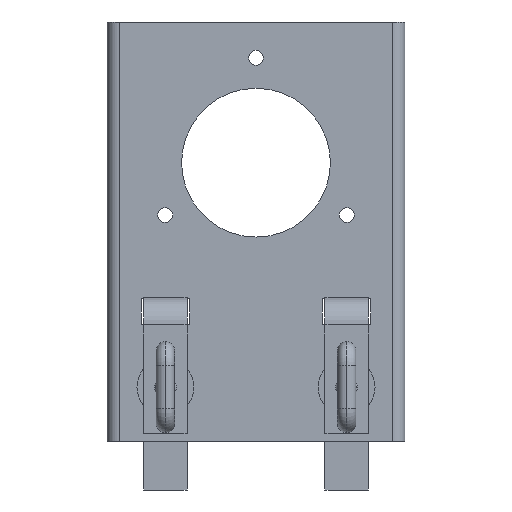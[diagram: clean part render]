
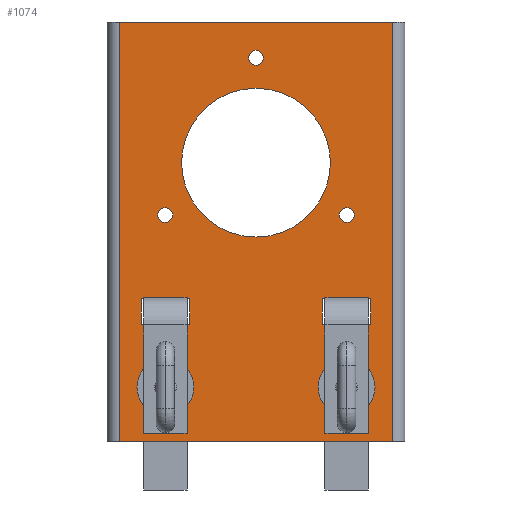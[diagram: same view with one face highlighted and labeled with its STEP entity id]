
A CAD part, front view. The second image highlights one B-rep face of the part: STEP entity #1074.
In plain terms, the highlighted planar face has unit normal (0, -1, 0) as drawn and (0, 0, -1) by its records, which use the part's own axes.
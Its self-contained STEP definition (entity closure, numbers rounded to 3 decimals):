
#56=DIRECTION('',(0.,1.,0.));
#57=VECTOR('',#56,155.);
#58=CARTESIAN_POINT('',(-50.5,0.,0.));
#59=LINE('',#58,#57);
#189=DIRECTION('',(-1.,0.,0.));
#190=VECTOR('',#189,101.);
#191=CARTESIAN_POINT('',(50.5,0.,0.));
#192=LINE('',#191,#190);
#197=DIRECTION('',(0.,1.,0.));
#198=VECTOR('',#197,155.);
#199=CARTESIAN_POINT('',(50.5,0.,0.));
#200=LINE('',#199,#198);
#215=CARTESIAN_POINT('',(0.,52.,0.));
#216=DIRECTION('',(0.,0.,1.));
#217=DIRECTION('',(1.,0.,0.));
#218=AXIS2_PLACEMENT_3D('',#215,#216,#217);
#220=CARTESIAN_POINT('',(0.,52.,0.));
#221=DIRECTION('',(0.,0.,1.));
#222=DIRECTION('',(-1.,0.,0.));
#223=AXIS2_PLACEMENT_3D('',#220,#221,#222);
#225=CARTESIAN_POINT('',(0.,13.25,0.));
#226=DIRECTION('',(0.,0.,1.));
#227=DIRECTION('',(1.,0.,0.));
#228=AXIS2_PLACEMENT_3D('',#225,#226,#227);
#230=CARTESIAN_POINT('',(0.,13.25,0.));
#231=DIRECTION('',(0.,0.,1.));
#232=DIRECTION('',(-1.,0.,0.));
#233=AXIS2_PLACEMENT_3D('',#230,#231,#232);
#235=CARTESIAN_POINT('',(33.558,71.375,0.));
#236=DIRECTION('',(0.,0.,1.));
#237=DIRECTION('',(-0.5,0.866,0.));
#238=AXIS2_PLACEMENT_3D('',#235,#236,#237);
#240=CARTESIAN_POINT('',(33.558,71.375,0.));
#241=DIRECTION('',(0.,0.,1.));
#242=DIRECTION('',(0.5,-0.866,0.));
#243=AXIS2_PLACEMENT_3D('',#240,#241,#242);
#245=CARTESIAN_POINT('',(-33.558,71.375,0.));
#246=DIRECTION('',(0.,0.,1.));
#247=DIRECTION('',(-0.5,-0.866,0.));
#248=AXIS2_PLACEMENT_3D('',#245,#246,#247);
#250=CARTESIAN_POINT('',(-33.558,71.375,0.));
#251=DIRECTION('',(0.,0.,1.));
#252=DIRECTION('',(0.5,0.866,0.));
#253=AXIS2_PLACEMENT_3D('',#250,#251,#252);
#255=DIRECTION('',(-1.,0.,0.));
#256=VECTOR('',#255,16.);
#257=CARTESIAN_POINT('',(-25.5,112.,0.));
#258=LINE('',#257,#256);
#259=DIRECTION('',(0.,1.,0.));
#260=VECTOR('',#259,8.);
#261=CARTESIAN_POINT('',(-24.5,103.,0.));
#262=LINE('',#261,#260);
#263=DIRECTION('',(1.,0.,0.));
#264=VECTOR('',#263,16.);
#265=CARTESIAN_POINT('',(-41.5,102.,0.));
#266=LINE('',#265,#264);
#267=DIRECTION('',(0.,-1.,0.));
#268=VECTOR('',#267,8.);
#269=CARTESIAN_POINT('',(-42.5,111.,0.));
#270=LINE('',#269,#268);
#271=DIRECTION('',(1.,0.,0.));
#272=VECTOR('',#271,16.);
#273=CARTESIAN_POINT('',(25.5,102.,0.));
#274=LINE('',#273,#272);
#275=DIRECTION('',(0.,-1.,0.));
#276=VECTOR('',#275,8.);
#277=CARTESIAN_POINT('',(24.5,111.,0.));
#278=LINE('',#277,#276);
#279=DIRECTION('',(-1.,0.,0.));
#280=VECTOR('',#279,16.);
#281=CARTESIAN_POINT('',(41.5,112.,0.));
#282=LINE('',#281,#280);
#283=DIRECTION('',(0.,1.,0.));
#284=VECTOR('',#283,8.);
#285=CARTESIAN_POINT('',(42.5,103.,0.));
#286=LINE('',#285,#284);
#295=DIRECTION('',(-1.,0.,0.));
#296=VECTOR('',#295,101.);
#297=CARTESIAN_POINT('',(50.5,155.,0.));
#298=LINE('',#297,#296);
#425=CARTESIAN_POINT('',(-41.5,111.,0.));
#426=DIRECTION('',(0.,0.,1.));
#427=DIRECTION('',(0.,1.,0.));
#428=AXIS2_PLACEMENT_3D('',#425,#426,#427);
#443=CARTESIAN_POINT('',(-41.5,103.,0.));
#444=DIRECTION('',(0.,0.,1.));
#445=DIRECTION('',(-1.,0.,0.));
#446=AXIS2_PLACEMENT_3D('',#443,#444,#445);
#461=CARTESIAN_POINT('',(-25.5,103.,0.));
#462=DIRECTION('',(0.,0.,1.));
#463=DIRECTION('',(0.,-1.,0.));
#464=AXIS2_PLACEMENT_3D('',#461,#462,#463);
#479=CARTESIAN_POINT('',(-25.5,111.,0.));
#480=DIRECTION('',(0.,0.,1.));
#481=DIRECTION('',(1.,0.,0.));
#482=AXIS2_PLACEMENT_3D('',#479,#480,#481);
#497=CARTESIAN_POINT('',(25.5,103.,0.));
#498=DIRECTION('',(0.,0.,1.));
#499=DIRECTION('',(-1.,0.,0.));
#500=AXIS2_PLACEMENT_3D('',#497,#498,#499);
#515=CARTESIAN_POINT('',(25.5,111.,0.));
#516=DIRECTION('',(0.,0.,1.));
#517=DIRECTION('',(0.,1.,0.));
#518=AXIS2_PLACEMENT_3D('',#515,#516,#517);
#533=CARTESIAN_POINT('',(41.5,111.,0.));
#534=DIRECTION('',(0.,0.,1.));
#535=DIRECTION('',(1.,0.,0.));
#536=AXIS2_PLACEMENT_3D('',#533,#534,#535);
#551=CARTESIAN_POINT('',(41.5,103.,0.));
#552=DIRECTION('',(0.,0.,1.));
#553=DIRECTION('',(0.,-1.,0.));
#554=AXIS2_PLACEMENT_3D('',#551,#552,#553);
#561=CARTESIAN_POINT('',(50.5,0.,0.));
#562=CARTESIAN_POINT('',(-50.5,0.,0.));
#563=VERTEX_POINT('',#561);
#564=VERTEX_POINT('',#562);
#565=CARTESIAN_POINT('',(50.5,155.,0.));
#566=CARTESIAN_POINT('',(-50.5,155.,0.));
#567=VERTEX_POINT('',#565);
#568=VERTEX_POINT('',#566);
#577=CARTESIAN_POINT('',(27.5,52.,0.));
#578=CARTESIAN_POINT('',(-27.5,52.,0.));
#579=VERTEX_POINT('',#577);
#580=VERTEX_POINT('',#578);
#585=CARTESIAN_POINT('',(2.75,13.25,0.));
#586=CARTESIAN_POINT('',(-2.75,13.25,0.));
#587=VERTEX_POINT('',#585);
#588=VERTEX_POINT('',#586);
#641=CARTESIAN_POINT('',(32.183,73.757,0.));
#642=CARTESIAN_POINT('',(34.933,68.993,0.));
#643=VERTEX_POINT('',#641);
#644=VERTEX_POINT('',#642);
#649=CARTESIAN_POINT('',(-34.933,68.993,0.));
#650=CARTESIAN_POINT('',(-32.183,73.757,0.));
#651=VERTEX_POINT('',#649);
#652=VERTEX_POINT('',#650);
#657=CARTESIAN_POINT('',(-41.5,112.,0.));
#659=VERTEX_POINT('',#657);
#661=CARTESIAN_POINT('',(-42.5,111.,0.));
#663=VERTEX_POINT('',#661);
#665=CARTESIAN_POINT('',(-24.5,111.,0.));
#667=VERTEX_POINT('',#665);
#669=CARTESIAN_POINT('',(-25.5,112.,0.));
#671=VERTEX_POINT('',#669);
#673=CARTESIAN_POINT('',(-25.5,102.,0.));
#675=VERTEX_POINT('',#673);
#677=CARTESIAN_POINT('',(-24.5,103.,0.));
#679=VERTEX_POINT('',#677);
#681=CARTESIAN_POINT('',(-42.5,103.,0.));
#683=VERTEX_POINT('',#681);
#685=CARTESIAN_POINT('',(-41.5,102.,0.));
#687=VERTEX_POINT('',#685);
#689=CARTESIAN_POINT('',(24.5,103.,0.));
#691=VERTEX_POINT('',#689);
#693=CARTESIAN_POINT('',(25.5,102.,0.));
#695=VERTEX_POINT('',#693);
#697=CARTESIAN_POINT('',(25.5,112.,0.));
#699=VERTEX_POINT('',#697);
#701=CARTESIAN_POINT('',(24.5,111.,0.));
#703=VERTEX_POINT('',#701);
#705=CARTESIAN_POINT('',(41.5,102.,0.));
#707=VERTEX_POINT('',#705);
#709=CARTESIAN_POINT('',(42.5,103.,0.));
#711=VERTEX_POINT('',#709);
#713=CARTESIAN_POINT('',(42.5,111.,0.));
#715=VERTEX_POINT('',#713);
#717=CARTESIAN_POINT('',(41.5,112.,0.));
#719=VERTEX_POINT('',#717);
#1002=CARTESIAN_POINT('',(55.,0.,0.));
#1003=DIRECTION('',(0.,0.,-1.));
#1004=DIRECTION('',(-1.,0.,0.));
#1005=AXIS2_PLACEMENT_3D('',#1002,#1003,#1004);
#1006=PLANE('',#1005);
#1007=ORIENTED_EDGE('',*,*,#967,.F.);
#1008=ORIENTED_EDGE('',*,*,#992,.T.);
#1010=ORIENTED_EDGE('',*,*,#1009,.T.);
#1011=ORIENTED_EDGE('',*,*,#807,.F.);
#1012=EDGE_LOOP('',(#1007,#1008,#1010,#1011));
#1013=FACE_OUTER_BOUND('',#1012,.F.);
#1015=ORIENTED_EDGE('',*,*,#1014,.F.);
#1017=ORIENTED_EDGE('',*,*,#1016,.F.);
#1018=EDGE_LOOP('',(#1015,#1017));
#1019=FACE_BOUND('',#1018,.F.);
#1021=ORIENTED_EDGE('',*,*,#1020,.F.);
#1023=ORIENTED_EDGE('',*,*,#1022,.F.);
#1024=EDGE_LOOP('',(#1021,#1023));
#1025=FACE_BOUND('',#1024,.F.);
#1027=ORIENTED_EDGE('',*,*,#1026,.F.);
#1029=ORIENTED_EDGE('',*,*,#1028,.F.);
#1030=EDGE_LOOP('',(#1027,#1029));
#1031=FACE_BOUND('',#1030,.F.);
#1033=ORIENTED_EDGE('',*,*,#1032,.F.);
#1035=ORIENTED_EDGE('',*,*,#1034,.F.);
#1036=EDGE_LOOP('',(#1033,#1035));
#1037=FACE_BOUND('',#1036,.F.);
#1039=ORIENTED_EDGE('',*,*,#1038,.F.);
#1041=ORIENTED_EDGE('',*,*,#1040,.F.);
#1043=ORIENTED_EDGE('',*,*,#1042,.F.);
#1045=ORIENTED_EDGE('',*,*,#1044,.F.);
#1047=ORIENTED_EDGE('',*,*,#1046,.F.);
#1049=ORIENTED_EDGE('',*,*,#1048,.F.);
#1051=ORIENTED_EDGE('',*,*,#1050,.F.);
#1053=ORIENTED_EDGE('',*,*,#1052,.F.);
#1054=EDGE_LOOP('',(#1039,#1041,#1043,#1045,#1047,#1049,#1051,#1053));
#1055=FACE_BOUND('',#1054,.F.);
#1057=ORIENTED_EDGE('',*,*,#1056,.F.);
#1059=ORIENTED_EDGE('',*,*,#1058,.F.);
#1061=ORIENTED_EDGE('',*,*,#1060,.F.);
#1063=ORIENTED_EDGE('',*,*,#1062,.F.);
#1065=ORIENTED_EDGE('',*,*,#1064,.F.);
#1067=ORIENTED_EDGE('',*,*,#1066,.F.);
#1069=ORIENTED_EDGE('',*,*,#1068,.F.);
#1071=ORIENTED_EDGE('',*,*,#1070,.F.);
#1072=EDGE_LOOP('',(#1057,#1059,#1061,#1063,#1065,#1067,#1069,#1071));
#1073=FACE_BOUND('',#1072,.F.);
#1074=ADVANCED_FACE('',(#1013,#1019,#1025,#1031,#1037,#1055,#1073),#1006,.T.);
#219=CIRCLE('',#218,27.5);
#224=CIRCLE('',#223,27.5);
#229=CIRCLE('',#228,2.75);
#234=CIRCLE('',#233,2.75);
#239=CIRCLE('',#238,2.75);
#244=CIRCLE('',#243,2.75);
#249=CIRCLE('',#248,2.75);
#254=CIRCLE('',#253,2.75);
#429=CIRCLE('',#428,1.);
#447=CIRCLE('',#446,1.);
#465=CIRCLE('',#464,1.);
#483=CIRCLE('',#482,1.);
#501=CIRCLE('',#500,1.);
#519=CIRCLE('',#518,1.);
#537=CIRCLE('',#536,1.);
#555=CIRCLE('',#554,1.);
#807=EDGE_CURVE('',#564,#568,#59,.T.);
#967=EDGE_CURVE('',#563,#564,#192,.T.);
#992=EDGE_CURVE('',#563,#567,#200,.T.);
#1009=EDGE_CURVE('',#567,#568,#298,.T.);
#1014=EDGE_CURVE('',#579,#580,#219,.T.);
#1016=EDGE_CURVE('',#580,#579,#224,.T.);
#1020=EDGE_CURVE('',#587,#588,#229,.T.);
#1022=EDGE_CURVE('',#588,#587,#234,.T.);
#1026=EDGE_CURVE('',#643,#644,#239,.T.);
#1028=EDGE_CURVE('',#644,#643,#244,.T.);
#1032=EDGE_CURVE('',#651,#652,#249,.T.);
#1034=EDGE_CURVE('',#652,#651,#254,.T.);
#1038=EDGE_CURVE('',#671,#659,#258,.T.);
#1040=EDGE_CURVE('',#667,#671,#483,.T.);
#1042=EDGE_CURVE('',#679,#667,#262,.T.);
#1044=EDGE_CURVE('',#675,#679,#465,.T.);
#1046=EDGE_CURVE('',#687,#675,#266,.T.);
#1048=EDGE_CURVE('',#683,#687,#447,.T.);
#1050=EDGE_CURVE('',#663,#683,#270,.T.);
#1052=EDGE_CURVE('',#659,#663,#429,.T.);
#1056=EDGE_CURVE('',#695,#707,#274,.T.);
#1058=EDGE_CURVE('',#691,#695,#501,.T.);
#1060=EDGE_CURVE('',#703,#691,#278,.T.);
#1062=EDGE_CURVE('',#699,#703,#519,.T.);
#1064=EDGE_CURVE('',#719,#699,#282,.T.);
#1066=EDGE_CURVE('',#715,#719,#537,.T.);
#1068=EDGE_CURVE('',#711,#715,#286,.T.);
#1070=EDGE_CURVE('',#707,#711,#555,.T.);
